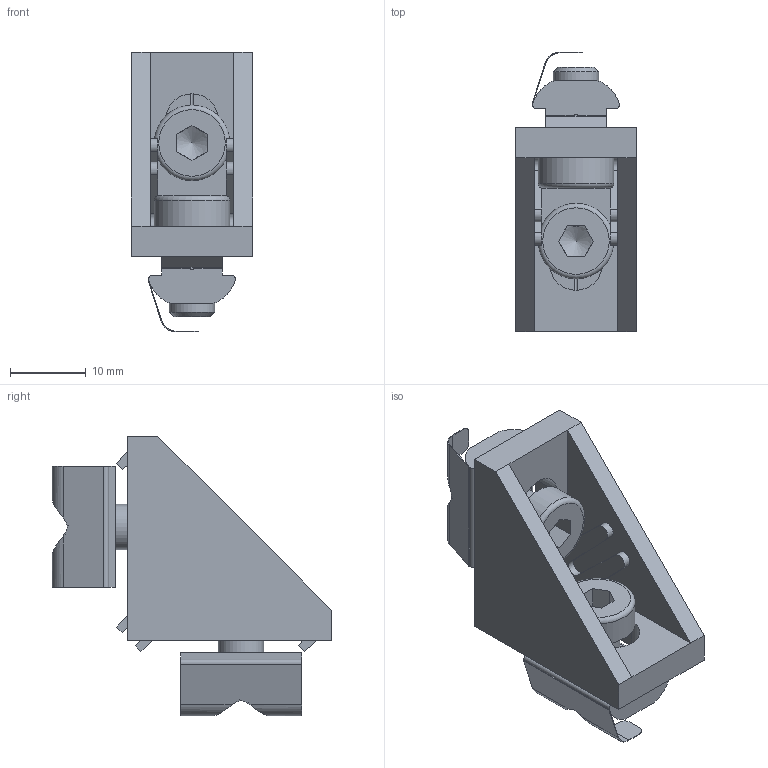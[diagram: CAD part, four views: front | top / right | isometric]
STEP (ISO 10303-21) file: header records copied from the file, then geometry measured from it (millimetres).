
FILE_DESCRIPTION((''),'2;1');
FILE_NAME('C:\Andys Backup Data\WEBSITE\DREAMWEAVER\MiniTec\Products\30 SERIES PROFILES\CAD\STEP\21.2077 ANGLE 16 GD-Z.stp','2014-03-14T11:20:26',('Admin'),(''),'Autodesk Inventor 2012','Autodesk Inventor 2012','');
FILE_SCHEMA(('AUTOMOTIVE_DESIGN { 1 0 10303 214 1 1 1 1 }'));
Length unit declared in the file: millimetre
Products named in the file (4): 21.2077  ANGLE 16 GD-Z; 21.2077_1  ANGLE 16 GD-Z; 21.1143 M6 x 12; 21.1569 M6 SQUARE NUT 30 POS FXG
Assembly tree (5 placements, depth 2):
  21.2077  ANGLE 16 GD-Z
    21.2077_1  ANGLE 16 GD-Z
    21.1143 M6 x 12  x2
    21.1569 M6 SQUARE NUT 30 POS FXG  x2
Bounding box: 16 x 36.97 x 36.97 mm (x, y, z)
Volume: 6281.7 mm3; surface area: 6227 mm2
Topology: 5 solids, 5 shells, 183 faces, 479 edges, 312 vertices
Faces by surface type: plane 123, cylinder 54, cone 4, torus 2
Full cylindrical faces by diameter (mm): 4.917 x2, 6 x2, 10 x2
Entity records: 4092 total; most frequent: CARTESIAN_POINT 741, DIRECTION 657, ORIENTED_EDGE 648, EDGE_CURVE 324, VECTOR 239, LINE 239, VERTEX_POINT 215, AXIS2_PLACEMENT_3D 209
